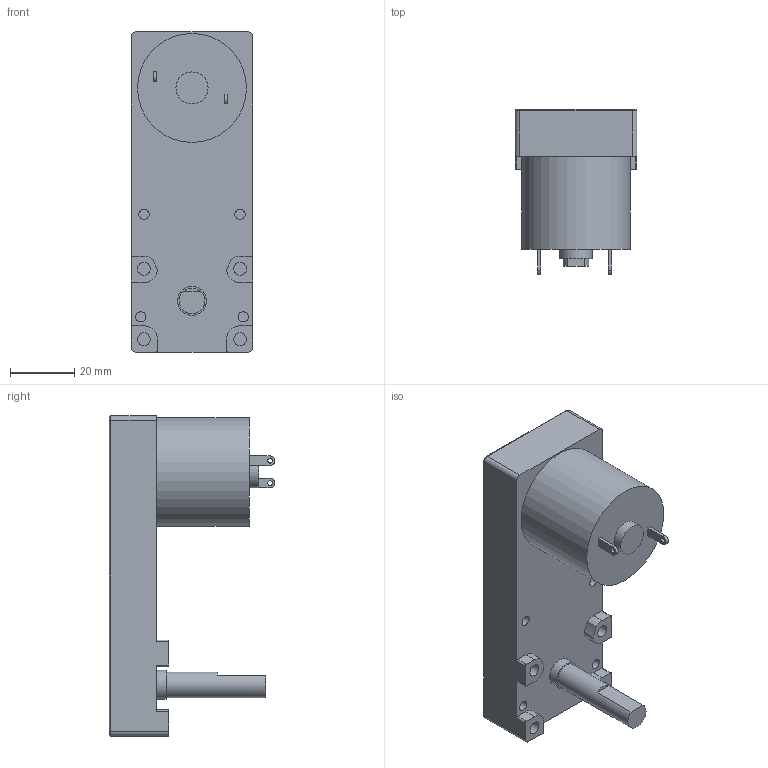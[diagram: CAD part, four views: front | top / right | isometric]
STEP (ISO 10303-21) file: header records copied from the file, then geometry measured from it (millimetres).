
FILE_DESCRIPTION((''),'2;1');
FILE_NAME('E:\2공장-도면\3D\표준형 3D(민규)\1공장 step\KGF R TYPE.stp','2015-02-26T12:24:08',('AHN'),(''),'Autodesk Inventor 2012','Autodesk Inventor 2012','');
FILE_SCHEMA(('CONFIG_CONTROL_DESIGN'));
Length unit declared in the file: millimetre
Products named in the file (1): KGF R타입
Bounding box: 38 x 51.8 x 100 mm (x, y, z)
Volume: 85051.3 mm3; surface area: 16672.9 mm2
Topology: 1 solids, 1 shells, 84 faces, 196 edges, 128 vertices
Faces by surface type: cylinder 40, plane 40, torus 4
Full cylindrical faces by diameter (mm): 1.5 x2, 3.2 x4, 4 x4, 8 x1, 9 x1, 10 x1, 34 x1
Entity records: 2376 total; most frequent: DIRECTION 436, CARTESIAN_POINT 393, ORIENTED_EDGE 362, EDGE_CURVE 181, AXIS2_PLACEMENT_3D 170, VERTEX_POINT 127, EDGE_LOOP 116, VECTOR 96
